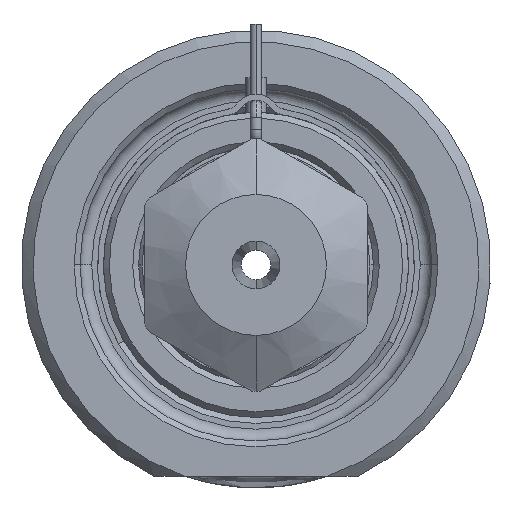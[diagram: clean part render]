
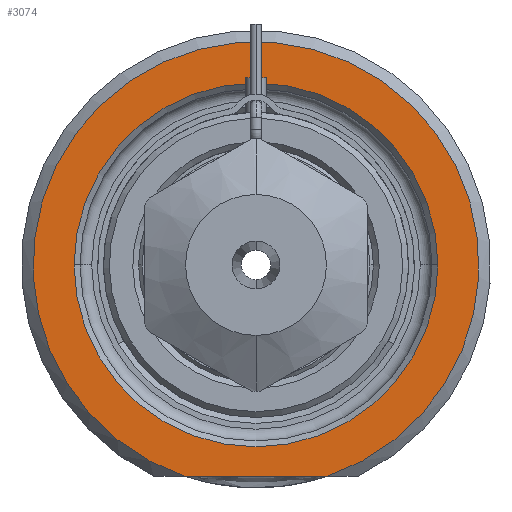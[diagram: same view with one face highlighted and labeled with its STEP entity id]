
A CAD part, front view. The second image highlights one B-rep face of the part: STEP entity #3074.
In plain terms, the highlighted planar face has unit normal (0, -1, 0).
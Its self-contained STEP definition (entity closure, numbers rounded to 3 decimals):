
#1=DIRECTION('',(1.,0.,0.));
#2=VECTOR('',#1,12.166);
#3=CARTESIAN_POINT('',(-6.083,0.,-18.));
#4=LINE('',#3,#2);
#5=CARTESIAN_POINT('',(0.,0.,0.));
#6=DIRECTION('',(0.,1.,0.));
#7=DIRECTION('',(-1.,0.,0.));
#8=AXIS2_PLACEMENT_3D('',#5,#6,#7);
#10=CARTESIAN_POINT('',(0.,0.,0.));
#11=DIRECTION('',(0.,1.,0.));
#12=DIRECTION('',(1.,0.,0.));
#13=AXIS2_PLACEMENT_3D('',#10,#11,#12);
#264=CARTESIAN_POINT('',(0.,0.,0.));
#265=DIRECTION('',(0.,-1.,0.));
#266=DIRECTION('',(0.32,0.,-0.947));
#267=AXIS2_PLACEMENT_3D('',#264,#265,#266);
#2577=CARTESIAN_POINT('',(-15.5,0.,0.));
#2578=CARTESIAN_POINT('',(15.5,0.,0.));
#2579=VERTEX_POINT('',#2577);
#2580=VERTEX_POINT('',#2578);
#2635=CARTESIAN_POINT('',(-6.083,0.,-18.));
#2636=CARTESIAN_POINT('',(6.083,0.,-18.));
#2637=VERTEX_POINT('',#2635);
#2638=VERTEX_POINT('',#2636);
#3057=CARTESIAN_POINT('',(0.,0.,0.));
#3058=DIRECTION('',(0.,-1.,0.));
#3059=DIRECTION('',(1.,0.,0.));
#3060=AXIS2_PLACEMENT_3D('',#3057,#3058,#3059);
#3061=PLANE('',#3060);
#3063=ORIENTED_EDGE('',*,*,#3062,.F.);
#3065=ORIENTED_EDGE('',*,*,#3064,.F.);
#3066=EDGE_LOOP('',(#3063,#3065));
#3067=FACE_OUTER_BOUND('',#3066,.F.);
#3069=ORIENTED_EDGE('',*,*,#3068,.F.);
#3071=ORIENTED_EDGE('',*,*,#3070,.F.);
#3072=EDGE_LOOP('',(#3069,#3071));
#3073=FACE_BOUND('',#3072,.F.);
#3074=ADVANCED_FACE('',(#3067,#3073),#3061,.T.);
#9=CIRCLE('',#8,15.5);
#14=CIRCLE('',#13,15.5);
#268=CIRCLE('',#267,19.);
#3062=EDGE_CURVE('',#2637,#2638,#4,.T.);
#3064=EDGE_CURVE('',#2638,#2637,#268,.T.);
#3068=EDGE_CURVE('',#2579,#2580,#9,.T.);
#3070=EDGE_CURVE('',#2580,#2579,#14,.T.);
